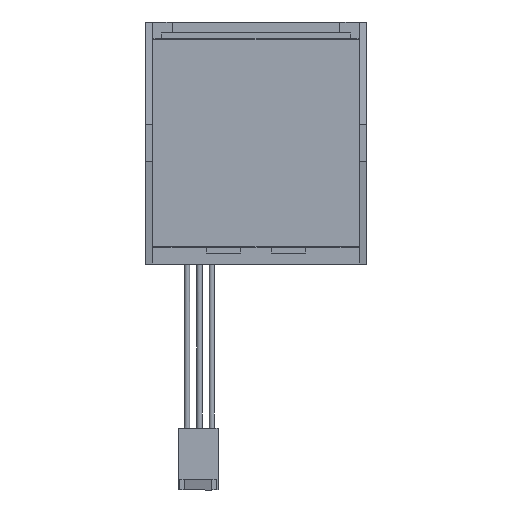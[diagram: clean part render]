
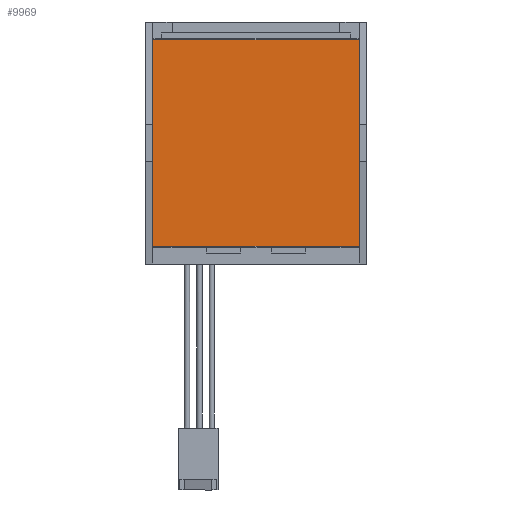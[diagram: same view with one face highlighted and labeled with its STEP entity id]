
A CAD part, front view. The second image highlights one B-rep face of the part: STEP entity #9969.
In plain terms, the highlighted planar face has unit normal (0, -1, 0).
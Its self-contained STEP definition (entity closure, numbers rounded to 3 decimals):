
#1014 = ORIENTED_EDGE ( 'NONE', *, *, #38621, .F. ) ;
#1086 = CARTESIAN_POINT ( 'NONE',  ( 21.209, -0.127, -21.209 ) ) ;
#2711 = CARTESIAN_POINT ( 'NONE',  ( -21.209, -0.127, -21.209 ) ) ;
#4701 = DIRECTION ( 'NONE',  ( 0., 0., 1. ) ) ;
#6502 = EDGE_LOOP ( 'NONE', ( #48356, #57134, #24904, #1014 ) ) ;
#7639 = VERTEX_POINT ( 'NONE', #49376 ) ;
#9969 = ADVANCED_FACE ( 'NONE', ( #58665 ), #30002, .F. ) ;
#11858 = VECTOR ( 'NONE', #4701, 1000. ) ;
#18322 = DIRECTION ( 'NONE',  ( 0., 1., 0. ) ) ;
#21571 = CARTESIAN_POINT ( 'NONE',  ( -21.209, -0.127, 21.209 ) ) ;
#21945 = DIRECTION ( 'NONE',  ( -1., 0., 0. ) ) ;
#24904 = ORIENTED_EDGE ( 'NONE', *, *, #43159, .F. ) ;
#24972 = VECTOR ( 'NONE', #49625, 1000. ) ;
#25343 = LINE ( 'NONE', #1086, #24972 ) ;
#28064 = LINE ( 'NONE', #47309, #11858 ) ;
#30002 = PLANE ( 'NONE',  #53670 ) ;
#31947 = DIRECTION ( 'NONE',  ( 1., 0., 0. ) ) ;
#35757 = LINE ( 'NONE', #21571, #48173 ) ;
#36699 = VECTOR ( 'NONE', #21945, 1000. ) ;
#37715 = CARTESIAN_POINT ( 'NONE',  ( 21.209, -0.127, 21.209 ) ) ;
#38143 = VERTEX_POINT ( 'NONE', #37715 ) ;
#38621 = EDGE_CURVE ( 'NONE', #55616, #38143, #35757, .T. ) ;
#41205 = VERTEX_POINT ( 'NONE', #52836 ) ;
#41629 = DIRECTION ( 'NONE',  ( 0., 0., 1. ) ) ;
#41814 = CARTESIAN_POINT ( 'NONE',  ( -21.209, -0.127, 21.209 ) ) ;
#43159 = EDGE_CURVE ( 'NONE', #38143, #7639, #25343, .T. ) ;
#47009 = CARTESIAN_POINT ( 'NONE',  ( -21.209, -0.127, 21.209 ) ) ;
#47309 = CARTESIAN_POINT ( 'NONE',  ( -21.209, -0.127, -21.209 ) ) ;
#48173 = VECTOR ( 'NONE', #31947, 1000. ) ;
#48356 = ORIENTED_EDGE ( 'NONE', *, *, #55298, .F. ) ;
#48799 = EDGE_CURVE ( 'NONE', #7639, #41205, #61632, .T. ) ;
#49376 = CARTESIAN_POINT ( 'NONE',  ( 21.209, -0.127, -21.209 ) ) ;
#49625 = DIRECTION ( 'NONE',  ( 0., 0., -1. ) ) ;
#52836 = CARTESIAN_POINT ( 'NONE',  ( -21.209, -0.127, -21.209 ) ) ;
#53670 = AXIS2_PLACEMENT_3D ( 'NONE', #47009, #18322, #41629 ) ;
#55298 = EDGE_CURVE ( 'NONE', #41205, #55616, #28064, .T. ) ;
#55616 = VERTEX_POINT ( 'NONE', #41814 ) ;
#57134 = ORIENTED_EDGE ( 'NONE', *, *, #48799, .F. ) ;
#58665 = FACE_OUTER_BOUND ( 'NONE', #6502, .T. ) ;
#61632 = LINE ( 'NONE', #2711, #36699 ) ;
